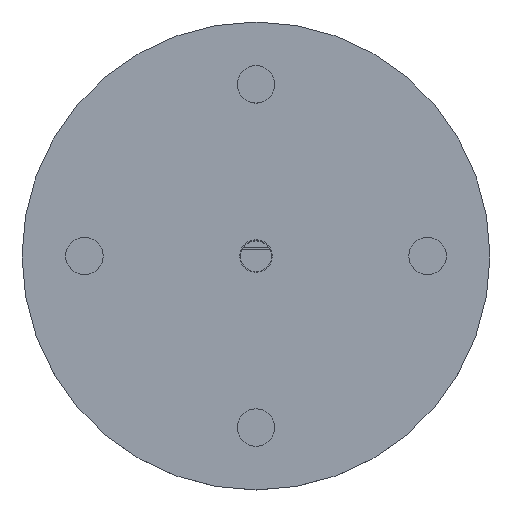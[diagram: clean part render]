
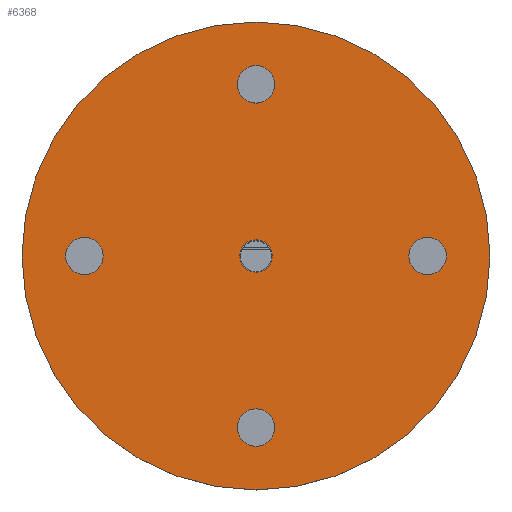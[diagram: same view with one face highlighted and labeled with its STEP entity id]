
A CAD part, top view. The second image highlights one B-rep face of the part: STEP entity #6368.
In plain terms, the highlighted planar face has unit normal (0, 0, 1) as drawn and (0, -1, 0) by its records, which use the part's own axes.
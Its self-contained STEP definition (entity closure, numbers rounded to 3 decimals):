
#6111=CARTESIAN_POINT('',(0.,0.,0.));
#6112=DIRECTION('',(0.,1.,0.));
#6113=DIRECTION('',(1.,0.,0.));
#6114=AXIS2_PLACEMENT_3D('',#6111,#6112,#6113);
#6116=CARTESIAN_POINT('',(0.,0.,0.));
#6117=DIRECTION('',(0.,1.,0.));
#6118=DIRECTION('',(-1.,0.,0.));
#6119=AXIS2_PLACEMENT_3D('',#6116,#6117,#6118);
#6121=CARTESIAN_POINT('',(0.,0.,0.));
#6122=DIRECTION('',(0.,-1.,0.));
#6123=DIRECTION('',(1.,0.,0.));
#6124=AXIS2_PLACEMENT_3D('',#6121,#6122,#6123);
#6126=CARTESIAN_POINT('',(0.,0.,0.));
#6127=DIRECTION('',(0.,-1.,0.));
#6128=DIRECTION('',(-1.,0.,0.));
#6129=AXIS2_PLACEMENT_3D('',#6126,#6127,#6128);
#6131=CARTESIAN_POINT('',(-55.,0.,0.));
#6132=DIRECTION('',(0.,-1.,0.));
#6133=DIRECTION('',(1.,0.,0.));
#6134=AXIS2_PLACEMENT_3D('',#6131,#6132,#6133);
#6136=CARTESIAN_POINT('',(-55.,0.,0.));
#6137=DIRECTION('',(0.,-1.,0.));
#6138=DIRECTION('',(-1.,0.,0.));
#6139=AXIS2_PLACEMENT_3D('',#6136,#6137,#6138);
#6141=CARTESIAN_POINT('',(0.,0.,55.));
#6142=DIRECTION('',(0.,-1.,0.));
#6143=DIRECTION('',(0.,0.,-1.));
#6144=AXIS2_PLACEMENT_3D('',#6141,#6142,#6143);
#6146=CARTESIAN_POINT('',(0.,0.,55.));
#6147=DIRECTION('',(0.,-1.,0.));
#6148=DIRECTION('',(0.,0.,1.));
#6149=AXIS2_PLACEMENT_3D('',#6146,#6147,#6148);
#6151=CARTESIAN_POINT('',(55.,0.,0.));
#6152=DIRECTION('',(0.,-1.,0.));
#6153=DIRECTION('',(-1.,0.,0.));
#6154=AXIS2_PLACEMENT_3D('',#6151,#6152,#6153);
#6156=CARTESIAN_POINT('',(55.,0.,0.));
#6157=DIRECTION('',(0.,-1.,0.));
#6158=DIRECTION('',(1.,0.,0.));
#6159=AXIS2_PLACEMENT_3D('',#6156,#6157,#6158);
#6161=CARTESIAN_POINT('',(0.,0.,-55.));
#6162=DIRECTION('',(0.,-1.,0.));
#6163=DIRECTION('',(0.,0.,1.));
#6164=AXIS2_PLACEMENT_3D('',#6161,#6162,#6163);
#6166=CARTESIAN_POINT('',(0.,0.,-55.));
#6167=DIRECTION('',(0.,-1.,0.));
#6168=DIRECTION('',(0.,0.,-1.));
#6169=AXIS2_PLACEMENT_3D('',#6166,#6167,#6168);
#6279=CARTESIAN_POINT('',(75.,0.,0.));
#6280=CARTESIAN_POINT('',(-75.,0.,0.));
#6281=VERTEX_POINT('',#6279);
#6282=VERTEX_POINT('',#6280);
#6283=CARTESIAN_POINT('',(5.2,0.,0.));
#6284=CARTESIAN_POINT('',(-5.2,0.,0.));
#6285=VERTEX_POINT('',#6283);
#6286=VERTEX_POINT('',#6284);
#6299=CARTESIAN_POINT('',(-49.,0.,0.));
#6300=CARTESIAN_POINT('',(-61.,0.,0.));
#6301=VERTEX_POINT('',#6299);
#6302=VERTEX_POINT('',#6300);
#6307=CARTESIAN_POINT('',(0.,0.,49.));
#6308=CARTESIAN_POINT('',(0.,0.,61.));
#6309=VERTEX_POINT('',#6307);
#6310=VERTEX_POINT('',#6308);
#6315=CARTESIAN_POINT('',(49.,0.,0.));
#6316=CARTESIAN_POINT('',(61.,0.,0.));
#6317=VERTEX_POINT('',#6315);
#6318=VERTEX_POINT('',#6316);
#6323=CARTESIAN_POINT('',(0.,0.,-49.));
#6324=CARTESIAN_POINT('',(0.,0.,-61.));
#6325=VERTEX_POINT('',#6323);
#6326=VERTEX_POINT('',#6324);
#6327=CARTESIAN_POINT('',(0.,0.,0.));
#6328=DIRECTION('',(0.,1.,0.));
#6329=DIRECTION('',(1.,0.,0.));
#6330=AXIS2_PLACEMENT_3D('',#6327,#6328,#6329);
#6331=PLANE('',#6330);
#6333=ORIENTED_EDGE('',*,*,#6332,.T.);
#6335=ORIENTED_EDGE('',*,*,#6334,.T.);
#6336=EDGE_LOOP('',(#6333,#6335));
#6337=FACE_OUTER_BOUND('',#6336,.F.);
#6339=ORIENTED_EDGE('',*,*,#6338,.T.);
#6341=ORIENTED_EDGE('',*,*,#6340,.T.);
#6342=EDGE_LOOP('',(#6339,#6341));
#6343=FACE_BOUND('',#6342,.F.);
#6345=ORIENTED_EDGE('',*,*,#6344,.T.);
#6347=ORIENTED_EDGE('',*,*,#6346,.T.);
#6348=EDGE_LOOP('',(#6345,#6347));
#6349=FACE_BOUND('',#6348,.F.);
#6351=ORIENTED_EDGE('',*,*,#6350,.T.);
#6353=ORIENTED_EDGE('',*,*,#6352,.T.);
#6354=EDGE_LOOP('',(#6351,#6353));
#6355=FACE_BOUND('',#6354,.F.);
#6357=ORIENTED_EDGE('',*,*,#6356,.T.);
#6359=ORIENTED_EDGE('',*,*,#6358,.T.);
#6360=EDGE_LOOP('',(#6357,#6359));
#6361=FACE_BOUND('',#6360,.F.);
#6363=ORIENTED_EDGE('',*,*,#6362,.T.);
#6365=ORIENTED_EDGE('',*,*,#6364,.T.);
#6366=EDGE_LOOP('',(#6363,#6365));
#6367=FACE_BOUND('',#6366,.F.);
#6115=CIRCLE('',#6114,75.);
#6120=CIRCLE('',#6119,75.);
#6125=CIRCLE('',#6124,5.2);
#6130=CIRCLE('',#6129,5.2);
#6135=CIRCLE('',#6134,6.);
#6140=CIRCLE('',#6139,6.);
#6145=CIRCLE('',#6144,6.);
#6150=CIRCLE('',#6149,6.);
#6155=CIRCLE('',#6154,6.);
#6160=CIRCLE('',#6159,6.);
#6165=CIRCLE('',#6164,6.);
#6170=CIRCLE('',#6169,6.);
#6332=EDGE_CURVE('',#6281,#6282,#6115,.T.);
#6334=EDGE_CURVE('',#6282,#6281,#6120,.T.);
#6338=EDGE_CURVE('',#6285,#6286,#6125,.T.);
#6340=EDGE_CURVE('',#6286,#6285,#6130,.T.);
#6344=EDGE_CURVE('',#6301,#6302,#6135,.T.);
#6346=EDGE_CURVE('',#6302,#6301,#6140,.T.);
#6350=EDGE_CURVE('',#6309,#6310,#6145,.T.);
#6352=EDGE_CURVE('',#6310,#6309,#6150,.T.);
#6356=EDGE_CURVE('',#6317,#6318,#6155,.T.);
#6358=EDGE_CURVE('',#6318,#6317,#6160,.T.);
#6362=EDGE_CURVE('',#6325,#6326,#6165,.T.);
#6364=EDGE_CURVE('',#6326,#6325,#6170,.T.);
#6368=ADVANCED_FACE('',(#6337,#6343,#6349,#6355,#6361,#6367),#6331,.F.);
